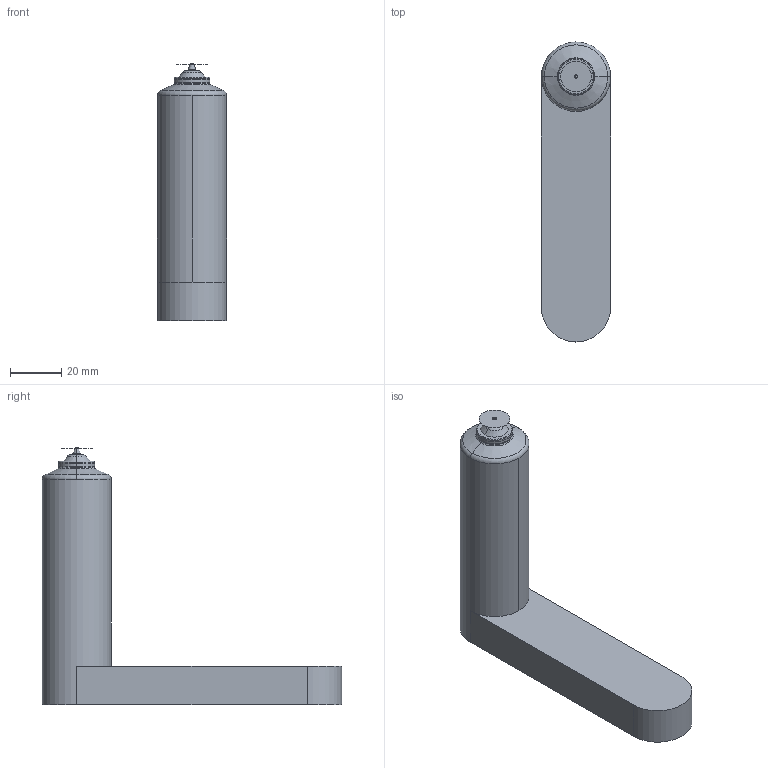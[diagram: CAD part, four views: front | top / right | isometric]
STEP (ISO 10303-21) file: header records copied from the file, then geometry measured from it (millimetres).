
FILE_DESCRIPTION (( 'STEP AP214' ), '1' );
FILE_NAME ('09E-03-100-VTW.STEP', '2023-01-03T12:42:07', ( '' ), ( '' ), 'SwSTEP 2.0', 'SolidWorks 2018', '' );
FILE_SCHEMA (( 'AUTOMOTIVE_DESIGN' ));
Length unit declared in the file: millimetre
Products named in the file (3): 09E-03-100-VTW; cutout_09E-03-100-VTW; nozzle_09E-03-100-VTW
Assembly tree (2 placements, depth 2):
  09E-03-100-VTW
    nozzle_09E-03-100-VTW
    cutout_09E-03-100-VTW
Bounding box: 27 x 117 x 100.45 mm (x, y, z)
Volume: 89145.7 mm3; surface area: 41831.4 mm2
Topology: 1 solids, 4 shells, 268 faces, 697 edges, 439 vertices
Faces by surface type: cylinder 116, plane 73, cone 49, torus 24, bspline 4, sphere 2
Entity records: 12261 total; most frequent: CARTESIAN_POINT 5439, DIRECTION 1464, ORIENTED_EDGE 1392, EDGE_CURVE 697, AXIS2_PLACEMENT_3D 585, VERTEX_POINT 439, CIRCLE 315, LINE 294
